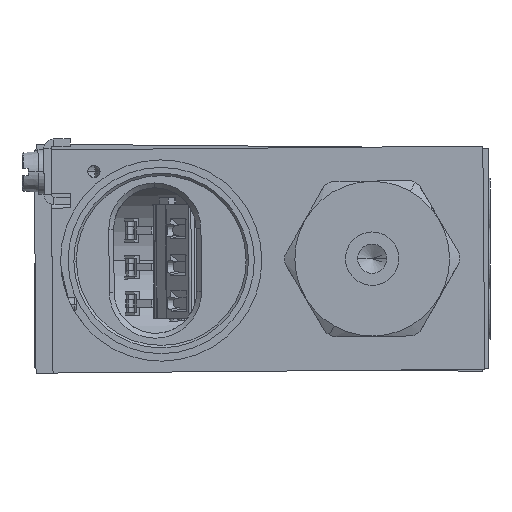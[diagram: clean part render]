
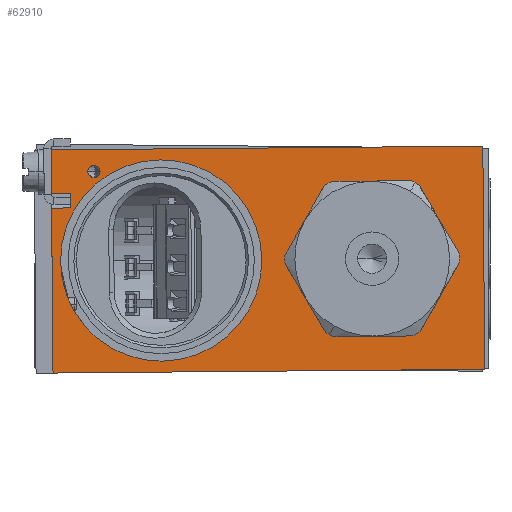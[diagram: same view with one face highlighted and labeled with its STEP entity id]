
A CAD part, left-side view. The second image highlights one B-rep face of the part: STEP entity #62910.
In plain terms, the highlighted planar face has unit normal (-1, 0, 0) as drawn and (0, 0, -1) by its records, which use the part's own axes.
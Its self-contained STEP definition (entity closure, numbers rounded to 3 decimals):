
#55184=DIRECTION('',(0.,-1.,0.));
#55185=VECTOR('',#55184,4.);
#55186=CARTESIAN_POINT('',(-11.,42.75,0.));
#55187=LINE('',#55186,#55185);
#55312=DIRECTION('',(1.,0.,0.));
#55313=VECTOR('',#55312,3.);
#55314=CARTESIAN_POINT('',(-14.,38.75,0.));
#55315=LINE('',#55314,#55313);
#55319=DIRECTION('',(0.,-1.,0.));
#55320=VECTOR('',#55319,4.);
#55321=CARTESIAN_POINT('',(-14.,42.75,0.));
#55322=LINE('',#55321,#55320);
#55326=DIRECTION('',(1.,0.,0.));
#55327=VECTOR('',#55326,9.);
#55328=CARTESIAN_POINT('',(-23.,42.75,0.));
#55329=LINE('',#55328,#55327);
#55333=DIRECTION('',(0.,1.,0.));
#55334=VECTOR('',#55333,89.);
#55335=CARTESIAN_POINT('',(-23.,-46.25,0.));
#55336=LINE('',#55335,#55334);
#55340=DIRECTION('',(-1.,0.,0.));
#55341=VECTOR('',#55340,46.);
#55342=CARTESIAN_POINT('',(23.,-46.25,0.));
#55343=LINE('',#55342,#55341);
#55347=DIRECTION('',(0.,-1.,0.));
#55348=VECTOR('',#55347,89.);
#55349=CARTESIAN_POINT('',(23.,42.75,0.));
#55350=LINE('',#55349,#55348);
#55354=DIRECTION('',(1.,0.,0.));
#55355=VECTOR('',#55354,34.);
#55356=CARTESIAN_POINT('',(-11.,42.75,0.));
#55357=LINE('',#55356,#55355);
#55361=CARTESIAN_POINT('',(0.,20.25,0.));
#55362=DIRECTION('',(0.,0.,1.));
#55363=DIRECTION('',(0.,-1.,0.));
#55364=AXIS2_PLACEMENT_3D('',#55361,#55362,#55363);
#55369=CARTESIAN_POINT('',(0.,20.25,0.));
#55370=DIRECTION('',(0.,0.,1.));
#55371=DIRECTION('',(0.,1.,0.));
#55372=AXIS2_PLACEMENT_3D('',#55369,#55370,#55371);
#55377=CARTESIAN_POINT('',(0.,-23.25,0.));
#55378=DIRECTION('',(0.,0.,1.));
#55379=DIRECTION('',(1.,0.,0.));
#55380=AXIS2_PLACEMENT_3D('',#55377,#55378,#55379);
#55385=CARTESIAN_POINT('',(0.,-23.25,0.));
#55386=DIRECTION('',(0.,0.,1.));
#55387=DIRECTION('',(-1.,0.,0.));
#55388=AXIS2_PLACEMENT_3D('',#55385,#55386,#55387);
#55393=CARTESIAN_POINT('',(-18.5,33.95,0.));
#55394=DIRECTION('',(0.,0.,1.));
#55395=DIRECTION('',(-1.,0.,0.));
#55396=AXIS2_PLACEMENT_3D('',#55393,#55394,#55395);
#55401=CARTESIAN_POINT('',(-18.5,33.95,0.));
#55402=DIRECTION('',(0.,0.,1.));
#55403=DIRECTION('',(1.,0.,0.));
#55404=AXIS2_PLACEMENT_3D('',#55401,#55402,#55403);
#61087=CARTESIAN_POINT('',(0.,-0.5,0.));
#61088=CARTESIAN_POINT('',(0.,41.,0.));
#61089=VERTEX_POINT('',#61087);
#61090=VERTEX_POINT('',#61088);
#61123=CARTESIAN_POINT('',(-23.,-46.25,0.));
#61124=CARTESIAN_POINT('',(-23.,42.75,0.));
#61125=VERTEX_POINT('',#61123);
#61126=VERTEX_POINT('',#61124);
#61210=CARTESIAN_POINT('',(-19.75,33.95,0.));
#61212=VERTEX_POINT('',#61210);
#61292=CARTESIAN_POINT('',(-11.,42.75,0.));
#61293=VERTEX_POINT('',#61292);
#61469=CARTESIAN_POINT('',(-11.,38.75,0.));
#61470=VERTEX_POINT('',#61469);
#61589=CARTESIAN_POINT('',(-14.,42.75,0.));
#61590=CARTESIAN_POINT('',(-14.,38.75,0.));
#61591=VERTEX_POINT('',#61589);
#61592=VERTEX_POINT('',#61590);
#61650=CARTESIAN_POINT('',(-17.25,33.95,0.));
#61651=VERTEX_POINT('',#61650);
#61662=CARTESIAN_POINT('',(23.,42.75,0.));
#61663=CARTESIAN_POINT('',(23.,-46.25,0.));
#61664=VERTEX_POINT('',#61662);
#61665=VERTEX_POINT('',#61663);
#61758=CARTESIAN_POINT('',(-11.03,-23.25,0.));
#61759=CARTESIAN_POINT('',(11.03,-23.25,0.));
#61760=VERTEX_POINT('',#61758);
#61761=VERTEX_POINT('',#61759);
#62874=CARTESIAN_POINT('',(0.,0.,0.));
#62875=DIRECTION('',(0.,0.,1.));
#62876=DIRECTION('',(1.,0.,0.));
#62877=AXIS2_PLACEMENT_3D('',#62874,#62875,#62876);
#62878=PLANE('',#62877);
#62880=ORIENTED_EDGE('',*,*,#62879,.F.);
#62882=ORIENTED_EDGE('',*,*,#62881,.F.);
#62884=ORIENTED_EDGE('',*,*,#62883,.F.);
#62885=ORIENTED_EDGE('',*,*,#62836,.F.);
#62886=ORIENTED_EDGE('',*,*,#62859,.F.);
#62887=ORIENTED_EDGE('',*,*,#62680,.F.);
#62888=ORIENTED_EDGE('',*,*,#62706,.F.);
#62889=ORIENTED_EDGE('',*,*,#62745,.T.);
#62890=EDGE_LOOP('',(#62880,#62882,#62884,#62885,#62886,#62887,#62888,#62889));
#62891=FACE_OUTER_BOUND('',#62890,.F.);
#62893=ORIENTED_EDGE('',*,*,#62892,.F.);
#62895=ORIENTED_EDGE('',*,*,#62894,.F.);
#62896=EDGE_LOOP('',(#62893,#62895));
#62897=FACE_BOUND('',#62896,.F.);
#62899=ORIENTED_EDGE('',*,*,#62898,.F.);
#62901=ORIENTED_EDGE('',*,*,#62900,.F.);
#62902=EDGE_LOOP('',(#62899,#62901));
#62903=FACE_BOUND('',#62902,.F.);
#62905=ORIENTED_EDGE('',*,*,#62904,.F.);
#62907=ORIENTED_EDGE('',*,*,#62906,.F.);
#62908=EDGE_LOOP('',(#62905,#62907));
#62909=FACE_BOUND('',#62908,.F.);
#55365=CIRCLE('',#55364,20.75);
#55373=CIRCLE('',#55372,20.75);
#55381=CIRCLE('',#55380,11.03);
#55389=CIRCLE('',#55388,11.03);
#55397=CIRCLE('',#55396,1.25);
#55405=CIRCLE('',#55404,1.25);
#62680=EDGE_CURVE('',#61664,#61665,#55350,.T.);
#62706=EDGE_CURVE('',#61293,#61664,#55357,.T.);
#62745=EDGE_CURVE('',#61293,#61470,#55187,.T.);
#62836=EDGE_CURVE('',#61125,#61126,#55336,.T.);
#62859=EDGE_CURVE('',#61665,#61125,#55343,.T.);
#62879=EDGE_CURVE('',#61592,#61470,#55315,.T.);
#62881=EDGE_CURVE('',#61591,#61592,#55322,.T.);
#62883=EDGE_CURVE('',#61126,#61591,#55329,.T.);
#62892=EDGE_CURVE('',#61089,#61090,#55365,.T.);
#62894=EDGE_CURVE('',#61090,#61089,#55373,.T.);
#62898=EDGE_CURVE('',#61761,#61760,#55381,.T.);
#62900=EDGE_CURVE('',#61760,#61761,#55389,.T.);
#62904=EDGE_CURVE('',#61212,#61651,#55397,.T.);
#62906=EDGE_CURVE('',#61651,#61212,#55405,.T.);
#62910=ADVANCED_FACE('',(#62891,#62897,#62903,#62909),#62878,.F.);
